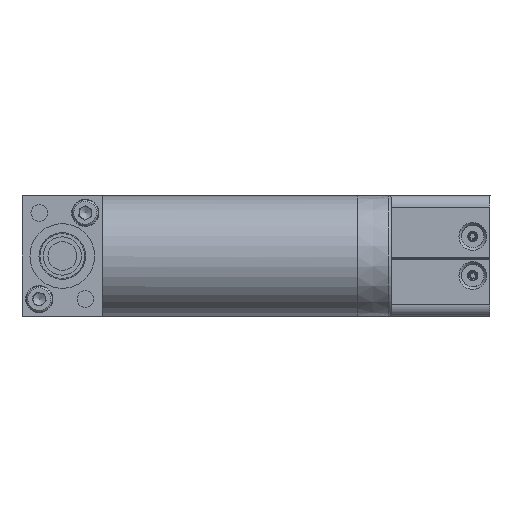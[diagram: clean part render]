
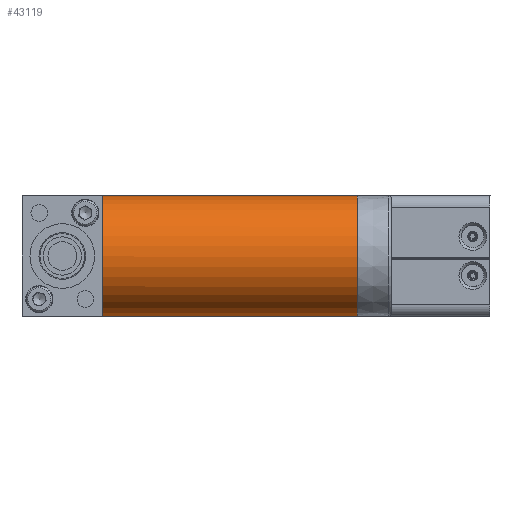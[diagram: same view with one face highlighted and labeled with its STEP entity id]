
A CAD part, left-side view. The second image highlights one B-rep face of the part: STEP entity #43119.
In plain terms, the highlighted cylindrical face has radius 13.335 mm (diameter 26.67 mm), a partial arc.
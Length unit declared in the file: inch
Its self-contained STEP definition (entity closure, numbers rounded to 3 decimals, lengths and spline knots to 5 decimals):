
#2935=CIRCLE('',#46039,0.525);
#3159=CIRCLE('',#46458,0.525);
#3175=CIRCLE('',#46490,0.525);
#3176=CIRCLE('',#46492,0.525);
#4480=CYLINDRICAL_SURFACE('',#46491,0.525);
#5810=FACE_OUTER_BOUND('',#8634,.T.);
#8634=EDGE_LOOP('',(#30268,#30269,#30270,#30271,#30272,#30273));
#11759=LINE('',#68096,#14754);
#11760=LINE('',#68099,#14755);
#14754=VECTOR('',#53501,39.37008);
#14755=VECTOR('',#53504,39.37008);
#17721=VERTEX_POINT('',#65619);
#17722=VERTEX_POINT('',#65620);
#18028=VERTEX_POINT('',#67853);
#18057=VERTEX_POINT('',#68090);
#18058=VERTEX_POINT('',#68092);
#18059=VERTEX_POINT('',#68097);
#22062=EDGE_CURVE('',#17721,#17722,#2935,.T.);
#22531=EDGE_CURVE('',#17722,#18028,#3159,.T.);
#22575=EDGE_CURVE('',#18057,#18058,#3175,.T.);
#22577=EDGE_CURVE('',#18058,#18028,#11759,.T.);
#22578=EDGE_CURVE('',#18059,#18057,#3176,.T.);
#22579=EDGE_CURVE('',#18059,#17721,#11760,.T.);
#30268=ORIENTED_EDGE('',*,*,#22062,.T.);
#30269=ORIENTED_EDGE('',*,*,#22531,.T.);
#30270=ORIENTED_EDGE('',*,*,#22577,.F.);
#30271=ORIENTED_EDGE('',*,*,#22575,.F.);
#30272=ORIENTED_EDGE('',*,*,#22578,.F.);
#30273=ORIENTED_EDGE('',*,*,#22579,.T.);
#43119=ADVANCED_FACE('',(#5810),#4480,.T.);
#46039=AXIS2_PLACEMENT_3D('',#65621,#52405,#52406);
#46458=AXIS2_PLACEMENT_3D('',#67855,#53408,#53409);
#46490=AXIS2_PLACEMENT_3D('',#68093,#53496,#53497);
#46491=AXIS2_PLACEMENT_3D('',#68095,#53499,#53500);
#46492=AXIS2_PLACEMENT_3D('',#68098,#53502,#53503);
#52405=DIRECTION('center_axis',(0.,1.,0.));
#52406=DIRECTION('ref_axis',(0.,0.,
1.));
#53408=DIRECTION('center_axis',(0.,1.,0.));
#53409=DIRECTION('ref_axis',(0.,0.,
1.));
#53496=DIRECTION('center_axis',(0.,1.,0.));
#53497=DIRECTION('ref_axis',(0.,0.,
1.));
#53499=DIRECTION('center_axis',(0.,-1.,0.));
#53500=DIRECTION('ref_axis',(0.,0.,
-1.));
#53501=DIRECTION('',(0.,-1.,0.));
#53502=DIRECTION('center_axis',(0.,1.,0.));
#53503=DIRECTION('ref_axis',(0.,0.,
1.));
#53504=DIRECTION('',(0.,-1.,0.));
#65619=CARTESIAN_POINT('',(-4.01004,0.60831,-0.52994));
#65620=CARTESIAN_POINT('',(-4.02276,0.60831,0.51991));
#65621=CARTESIAN_POINT('Origin',(-4.01004,0.60831,-0.00494));
#67853=CARTESIAN_POINT('',(-4.01004,0.60831,0.52006));
#67855=CARTESIAN_POINT('Origin',(-4.01004,0.60831,-0.00494));
#68090=CARTESIAN_POINT('',(-4.01822,2.82331,0.52));
#68092=CARTESIAN_POINT('',(-4.01004,2.82331,0.52006));
#68093=CARTESIAN_POINT('Origin',(-4.01004,2.82331,-0.00494));
#68095=CARTESIAN_POINT('Origin',(-4.01004,2.82331,-0.00494));
#68096=CARTESIAN_POINT('',(-4.01004,2.82331,0.52006));
#68097=CARTESIAN_POINT('',(-4.01004,2.82331,-0.52994));
#68098=CARTESIAN_POINT('Origin',(-4.01004,2.82331,-0.00494));
#68099=CARTESIAN_POINT('',(-4.01004,2.82331,-0.52994));
